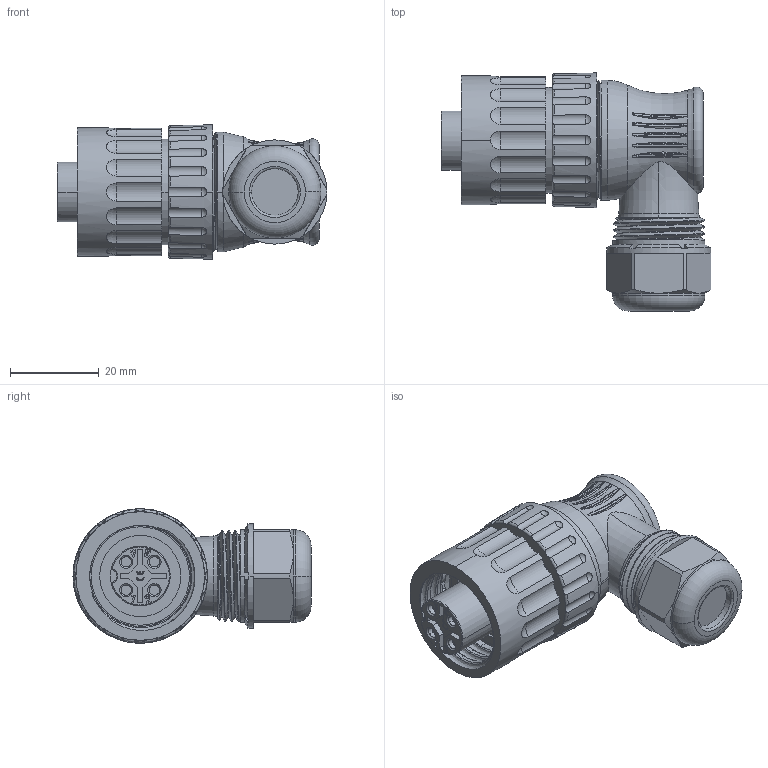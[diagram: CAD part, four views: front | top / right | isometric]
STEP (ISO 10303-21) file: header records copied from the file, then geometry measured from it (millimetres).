
FILE_DESCRIPTION((''),'2;1');
FILE_NAME('WA22K4TL2','2019-03-14T',('Administrator'),(''),'CREO PARAMETRIC BY PTC INC, 2016130','CREO PARAMETRIC BY PTC INC, 2016130','');
FILE_SCHEMA(('CONFIG_CONTROL_DESIGN'));
Length unit declared in the file: millimetre
Products named in the file (1): WA22K4TL2
Bounding box: 60.85 x 53.67 x 30.35 mm (x, y, z)
Volume: 36637.4 mm3; surface area: 11046.8 mm2
Topology: 1 solids, 5 shells, 471 faces, 1293 edges, 865 vertices
Faces by surface type: plane 123, cylinder 115, torus 75, cone 63, sphere 38, extrusion 35, bspline 22
Entity records: 21538 total; most frequent: CARTESIAN_POINT 10034, ORIENTED_EDGE 2586, DIRECTION 2151, EDGE_CURVE 1293, VERTEX_POINT 865, AXIS2_PLACEMENT_3D 862, EDGE_LOOP 504, B_SPLINE_CURVE_WITH_KNOTS 488
